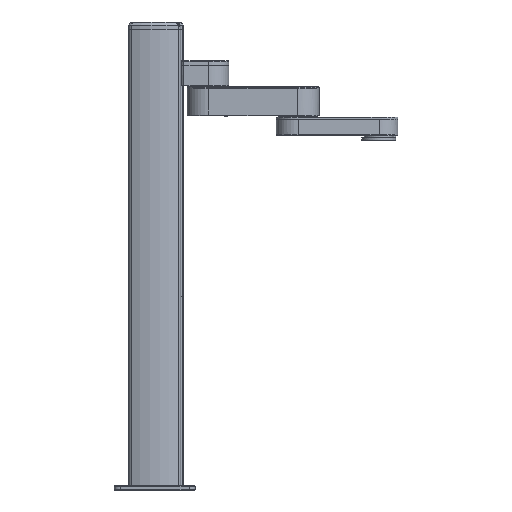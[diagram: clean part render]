
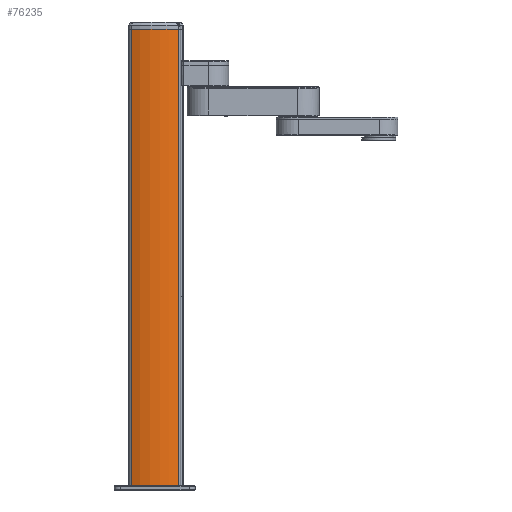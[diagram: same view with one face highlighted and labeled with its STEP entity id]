
A CAD part, front view. The second image highlights one B-rep face of the part: STEP entity #76235.
In plain terms, the highlighted cylindrical face has radius 140 mm (diameter 280 mm), a partial arc.
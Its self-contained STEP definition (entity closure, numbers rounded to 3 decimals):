
#3619 = VECTOR ( 'NONE', #55241, 1000. ) ;
#4505 = DIRECTION ( 'NONE',  ( 0., 0., -1. ) ) ;
#4899 = CARTESIAN_POINT ( 'NONE',  ( 58.231, -61.353, 13.34 ) ) ;
#11692 = DIRECTION ( 'NONE',  ( 0., 0., -1. ) ) ;
#14445 = CIRCLE ( 'NONE', #75902, 140. ) ;
#17050 = CARTESIAN_POINT ( 'NONE',  ( -1., 65.5, -550. ) ) ;
#18461 = ORIENTED_EDGE ( 'NONE', *, *, #29781, .T. ) ;
#18727 = CARTESIAN_POINT ( 'NONE',  ( -1., 65.5, 13.34 ) ) ;
#26578 = CYLINDRICAL_SURFACE ( 'NONE', #50900, 140. ) ;
#27918 = LINE ( 'NONE', #4899, #54277 ) ;
#29600 = FACE_OUTER_BOUND ( 'NONE', #49215, .T. ) ;
#29781 = EDGE_CURVE ( 'NONE', #71698, #59223, #44026, .T. ) ;
#29801 = DIRECTION ( 'NONE',  ( 0., -1., 0. ) ) ;
#31327 = CARTESIAN_POINT ( 'NONE',  ( -58.077, -62.337, -550. ) ) ;
#33500 = CARTESIAN_POINT ( 'NONE',  ( 58.231, -61.353, -550. ) ) ;
#36548 = ORIENTED_EDGE ( 'NONE', *, *, #38975, .F. ) ;
#37510 = DIRECTION ( 'NONE',  ( 0., 0., -1. ) ) ;
#38159 = VERTEX_POINT ( 'NONE', #33500 ) ;
#38975 = EDGE_CURVE ( 'NONE', #38159, #79706, #14445, .T. ) ;
#44026 = CIRCLE ( 'NONE', #80346, 140. ) ;
#45771 = CARTESIAN_POINT ( 'NONE',  ( -58.077, -62.337, 578. ) ) ;
#49215 = EDGE_LOOP ( 'NONE', ( #82546, #36548, #63549, #18461 ) ) ;
#49952 = CARTESIAN_POINT ( 'NONE',  ( -1., 65.5, 578. ) ) ;
#50900 = AXIS2_PLACEMENT_3D ( 'NONE', #18727, #77319, #83807 ) ;
#54277 = VECTOR ( 'NONE', #37510, 1000. ) ;
#55241 = DIRECTION ( 'NONE',  ( 0., 0., -1. ) ) ;
#57042 = DIRECTION ( 'NONE',  ( 0., -1., 0. ) ) ;
#59223 = VERTEX_POINT ( 'NONE', #45771 ) ;
#63549 = ORIENTED_EDGE ( 'NONE', *, *, #73918, .F. ) ;
#69025 = CARTESIAN_POINT ( 'NONE',  ( -58.077, -62.337, 14. ) ) ;
#71698 = VERTEX_POINT ( 'NONE', #74879 ) ;
#73918 = EDGE_CURVE ( 'NONE', #71698, #38159, #27918, .T. ) ;
#74879 = CARTESIAN_POINT ( 'NONE',  ( 58.231, -61.353, 578. ) ) ;
#74944 = EDGE_CURVE ( 'NONE', #59223, #79706, #81719, .T. ) ;
#75902 = AXIS2_PLACEMENT_3D ( 'NONE', #17050, #4505, #29801 ) ;
#76235 = ADVANCED_FACE ( 'NONE', ( #29600 ), #26578, .T. ) ;
#77319 = DIRECTION ( 'NONE',  ( 0., 0., 1. ) ) ;
#79706 = VERTEX_POINT ( 'NONE', #31327 ) ;
#80346 = AXIS2_PLACEMENT_3D ( 'NONE', #49952, #11692, #57042 ) ;
#81719 = LINE ( 'NONE', #69025, #3619 ) ;
#82546 = ORIENTED_EDGE ( 'NONE', *, *, #74944, .T. ) ;
#83807 = DIRECTION ( 'NONE',  ( -0.677, -0.736, 0. ) ) ;
